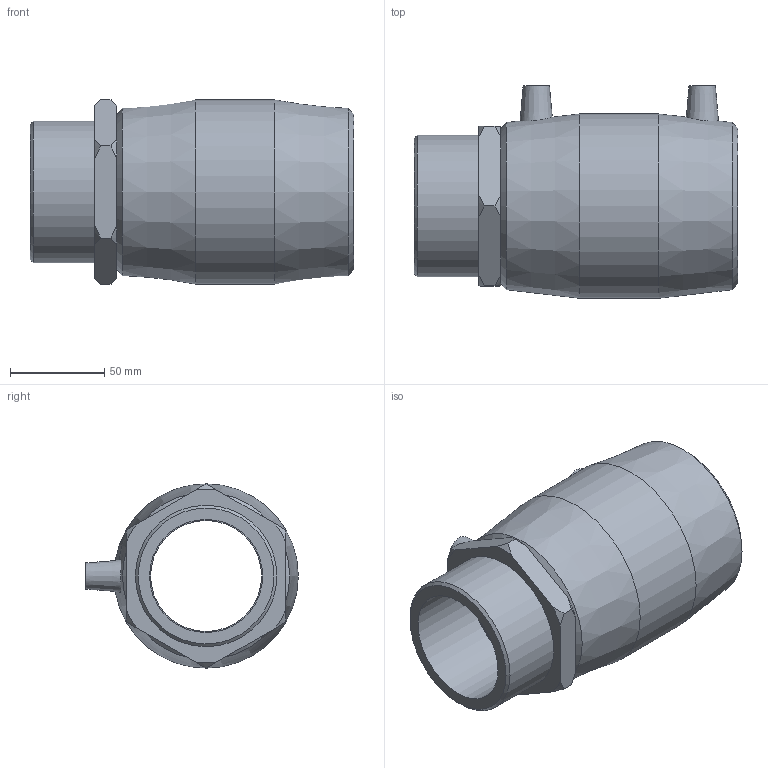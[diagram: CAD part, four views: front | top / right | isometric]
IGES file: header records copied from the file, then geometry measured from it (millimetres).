
Global section: file name: 492104075025.ipt; native system: Autodesk Inventor 2015; preprocessor: unknown; author: KIM; date: 20200202.122327; units: millimetre
Bounding box: 172 x 113 x 98 mm (x, y, z)
Volume: 535429.7 mm3; surface area: 101099.5 mm2
Topology: 1 solids, 2 shells, 54 faces, 129 edges, 88 vertices
Faces by surface type: plane 21, cone 19, revolution 8, cylinder 6
Full cylindrical faces by diameter (mm): 4 x2, 75 x2, 75.184 x1, 98 x1
